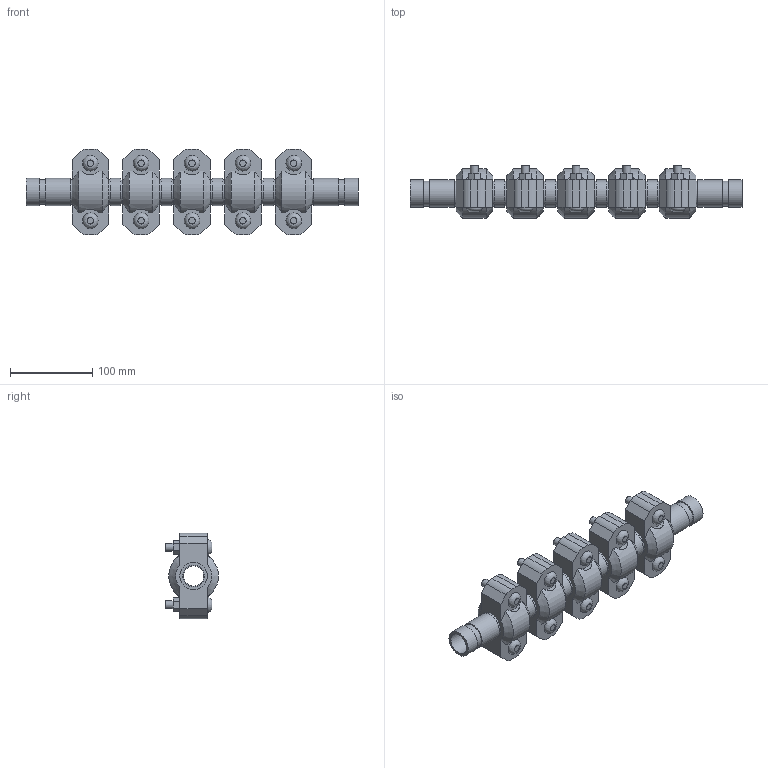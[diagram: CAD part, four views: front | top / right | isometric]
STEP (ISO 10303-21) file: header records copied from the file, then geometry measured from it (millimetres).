
FILE_DESCRIPTION(/* description */ ('VIC EXPANSION JOINT 5 COUPLINGS EXPANDED STYLE 155 (OGS)','CAx-IF Rec.Pracs.---Representation and Presentation of Product Manufacturing Information (PMI)---4.0---2014-10-13'),/* implementation_level */ '2;1');
FILE_NAME(/* name */ 'C:\Users\kkamble\AppData\Roaming\Autodesk\ApplicationPlugins\Victaulic.Temp\A557\Victaulic_IPS_Expansion Joint_Expanded_5 Couplings_Style 155 (OGS)_1 (25).stp',/* time_stamp */ '2021-06-27T00:02:03+02:00',/* author */ ('kkamble'),/* organization */ ('Victaulic'),/* preprocessor_version */ 'ST-DEVELOPER v17.2',/* originating_system */ 'Autodesk Inventor 2019',/* authorisation */ '');
FILE_SCHEMA (('AP242_MANAGED_MODEL_BASED_3D_ENGINEERING_MIM_LF { 1 0 10303 442 1 1 4 }'));
Length unit declared in the file: inch
Products named in the file (4): 155-01.0; Nipple-01.0; Nipple-01.0_1; 077-01.0
Assembly tree (11 placements, depth 2):
  155-01.0
    Nipple-01.0  x2
    Nipple-01.0_1  x4
    077-01.0  x5
Bounding box: 404.62 x 64.33 x 104.65 mm (x, y, z)
Volume: 840593.7 mm3; surface area: 228490.5 mm2
Topology: 11 solids, 21 shells, 377 faces, 905 edges, 634 vertices
Faces by surface type: plane 216, cylinder 131, cone 20, bspline 10
Full cylindrical faces by diameter (mm): 9.525 x20, 11.43 x10, 24.511 x5, 26.645 x6, 30.226 x12, 33.401 x28
Entity records: 2985 total; most frequent: CARTESIAN_POINT 571, DIRECTION 485, ORIENTED_EDGE 410, EDGE_CURVE 205, AXIS2_PLACEMENT_3D 194, VERTEX_POINT 146, EDGE_LOOP 111, LINE 97
